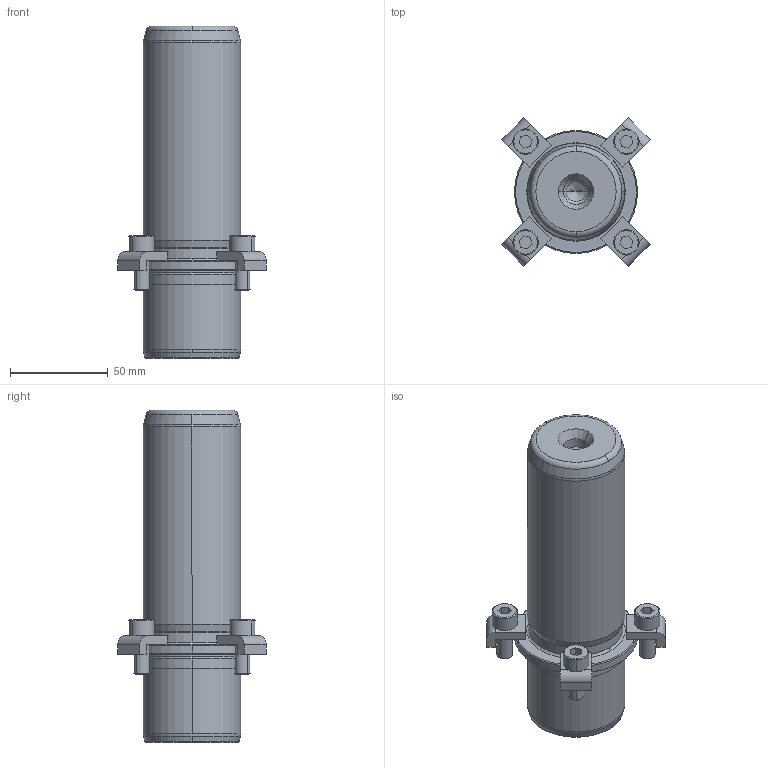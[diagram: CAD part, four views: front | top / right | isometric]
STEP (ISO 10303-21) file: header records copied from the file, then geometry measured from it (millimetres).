
FILE_DESCRIPTION((''),'2;1');
FILE_NAME('P21_050_125.stp','2008-12-23T13:42:18',(''),(''),'Mechanical Desktop 2009','Mechanical Desktop 2009',', , ');
FILE_SCHEMA(('CONFIG_CONTROL_DESIGN'));
Length unit declared in the file: millimetre
Products named in the file (2): Product; blmdl1
Assembly tree (1 placements, depth 2):
  Product
    blmdl1
Bounding box: 76.01 x 76.01 x 170 mm (x, y, z)
Volume: 341963.6 mm3; surface area: 44072.3 mm2
Topology: 9 solids, 9 shells, 195 faces, 477 edges, 309 vertices
Faces by surface type: plane 77, cylinder 52, cone 34, torus 16, bspline 16
Entity records: 6547 total; most frequent: CARTESIAN_POINT 1683, DIRECTION 1078, ORIENTED_EDGE 946, EDGE_CURVE 473, AXIS2_PLACEMENT_3D 424, VERTEX_POINT 309, CIRCLE 243, VECTOR 230
